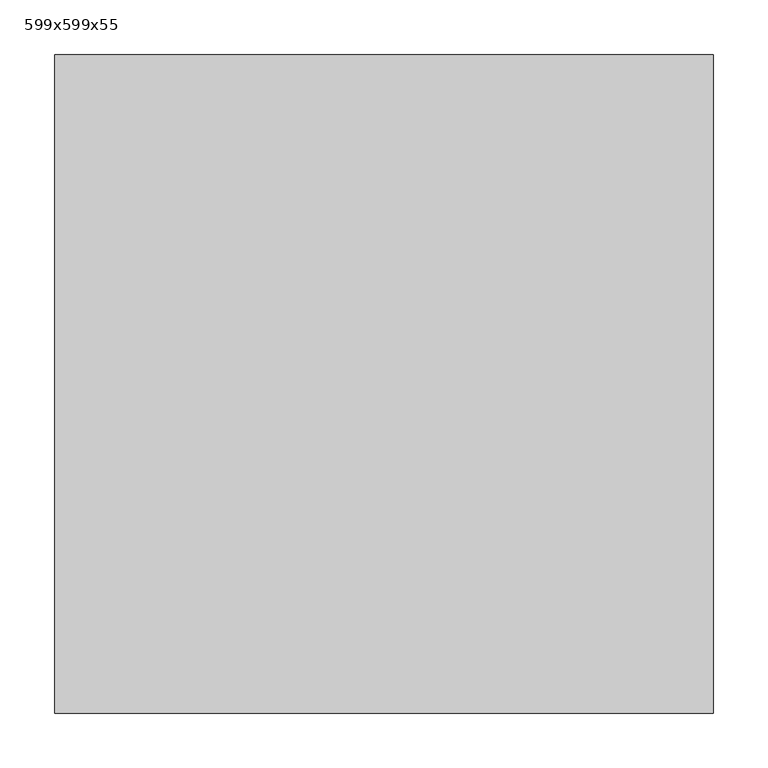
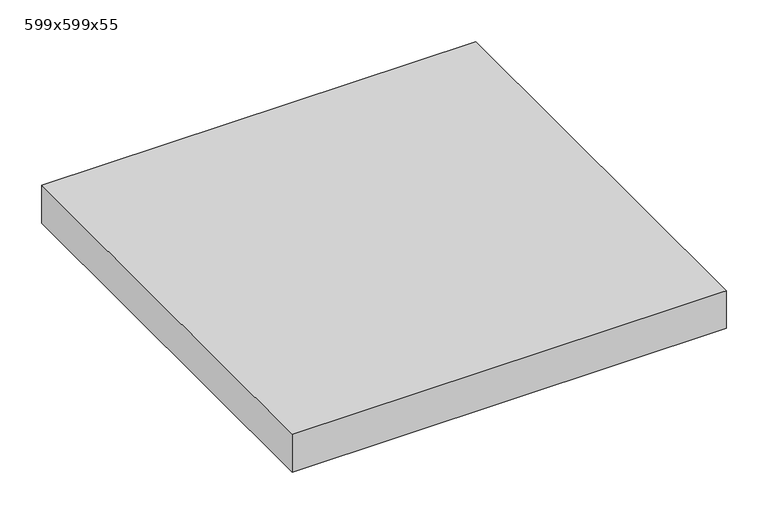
"""IFC4 building model written with IfcOpenShell, lengths in millimetres: proxy geometry, Texaa Panneaux Stereo fixés contre support par système magnétique séparés ou groupés au mur : 599x599x55."""

from ifc_helpers import new_model, si_unit, frame, origin, place, context, project, spatial, polyline, outline, extrude, faceted_brep, source, transform, mapped, element, save


def proxy_599x599x55_ac22d040(model_context):
    return source(origin(), model_context, "Body", "SolidModel", [
        extrude(outline(polyline([(-298.5, 298.5), (298.5, 298.5), (298.5, -298.5), (-298.5, -298.5), (-298.5, 298.5)])), frame((0.0, 0.0, 11.0), z_axis=(0.0, 0.0, 1.0), x_axis=(1.0, 0.0, 0.0)), (0.0, 0.0, 1.0), 53.0),
        faceted_brep([(299.5, -299.5, 65.0), (299.5, 299.5, 65.0), (-299.5, 299.5, 65.0), (-299.5, 298.0857864, 65.0), (-299.5, 296.6715729, 65.0), (-299.5, 228.7893219, 65.0), (-299.5, -299.5, 65.0), (228.7893219, -299.5, 65.0), (296.6715729, -299.5, 65.0), (298.0857864, -299.5, 65.0), (-299.5, 299.5, 10.0), (299.5, 299.5, 10.0), (299.5, -299.5, 10.0), (-299.5, -299.5, 10.0), (-249.5, -249.5, 10.0), (249.5, -249.5, 10.0), (249.5, 249.5, 10.0), (-249.5, 249.5, 10.0), (-299.5, 299.5, 64.0), (299.5, -299.5, 64.0), (-249.5, -249.5, 11.0), (249.5, -249.5, 11.0), (249.5, 249.5, 11.0), (-249.5, 249.5, 11.0), (-298.5, 298.5, 64.0), (298.5, 298.5, 64.0), (298.5, -298.5, 64.0), (297.0857864, -298.5, 64.0), (295.6715729, -298.5, 64.0), (227.7893219, -298.5, 64.0), (-298.5, -298.5, 64.0), (-298.5, 227.7893219, 64.0), (-298.5, 295.6715729, 64.0), (-298.5, 297.0857864, 64.0), (-298.5, 298.5, 11.0), (-298.5, -298.5, 11.0), (298.5, -298.5, 11.0), (298.5, 298.5, 11.0)], [[[0, 1, 2, 3, 4, 5, 6, 7, 8, 9]], [[10, 11, 12, 13], [14, 15, 16, 17]], [[10, 13, 6, 5, 4, 3, 2, 18]], [[13, 12, 19, 0, 9, 8, 7, 6]], [[1, 0, 19, 12, 11]], [[2, 1, 11, 10, 18]], [[14, 20, 21, 15]], [[15, 21, 22, 16]], [[16, 22, 23, 17]], [[20, 14, 17, 23]], [[24, 25, 26, 27, 28, 29, 30, 31, 32, 33]], [[34, 35, 36, 37], [21, 20, 23, 22]], [[35, 34, 24, 33, 32, 31, 30]], [[36, 35, 30, 29, 28, 27, 26]], [[26, 25, 37, 36]], [[25, 24, 34, 37]]]),
    ])


if __name__ == "__main__":
    model = new_model("IFC4")
    model_context = context("Model", 3, world=origin())
    ifc_project = project(units=[si_unit("LENGTHUNIT", "METRE", prefix="MILLI")], contexts=[model_context])
    site = spatial("IfcSite", under=ifc_project)
    building = spatial("IfcBuilding", under=site)
    placement = place(None, origin())
    proxy_599x599x55_shape = proxy_599x599x55_ac22d040(model_context)
    element("IfcBuildingElementProxy", 1, Name="Texaa Panneaux Stereo fixés contre support par système magnétique séparés ou groupés au mur : 599x599x55", ObjectType="Texaa Panneaux Stereo fixés contre support par système magnétique séparés ou groupés au mur : 599x599x55", at=placement, inside=building, context=model_context, shape_type="MappedRepresentation", body=[
        mapped(proxy_599x599x55_shape, transform((0.0, 0.0, 0.0), x_axis=(1.0, 0.0, 0.0), y_axis=(0.0, 1.0, 0.0), z_axis=(0.0, 0.0, 1.0))),
    ])
    save(model, "model.ifc")
